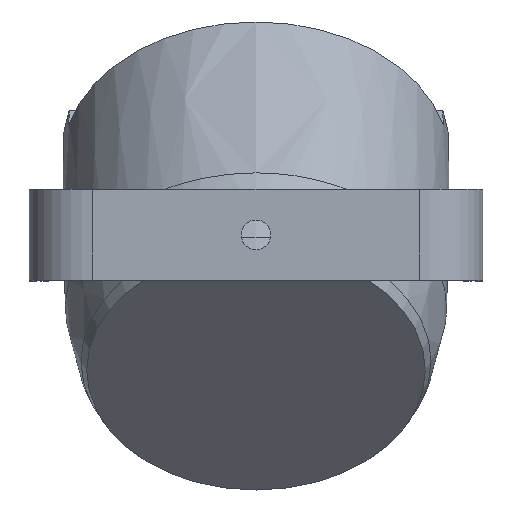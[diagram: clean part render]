
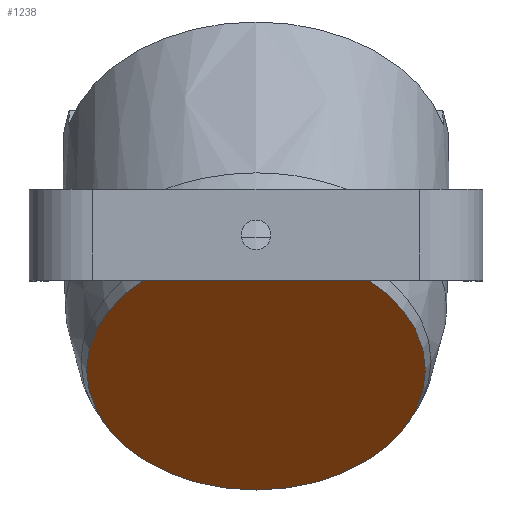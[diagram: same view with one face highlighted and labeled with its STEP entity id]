
A CAD part, top view. The second image highlights one B-rep face of the part: STEP entity #1238.
In plain terms, the highlighted planar face has unit normal (0, -0.707, 0.707) as drawn and (0, -1, 0) by its records, which use the part's own axes.
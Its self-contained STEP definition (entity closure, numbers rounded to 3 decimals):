
#149=CIRCLE('',#1475,74.58);
#215=FACE_OUTER_BOUND('',#294,.T.);
#294=EDGE_LOOP('',(#1133));
#614=VERTEX_POINT('',#2501);
#786=EDGE_CURVE('',#614,#614,#149,.T.);
#1133=ORIENTED_EDGE('',*,*,#786,.T.);
#1172=PLANE('',#1476);
#1238=ADVANCED_FACE('',(#215),#1172,.T.);
#1475=AXIS2_PLACEMENT_3D('',#2502,#1841,#1842);
#1476=AXIS2_PLACEMENT_3D('',#2506,#1843,#1844);
#1841=DIRECTION('center_axis',(0.,-1.,0.));
#1842=DIRECTION('ref_axis',(1.,0.,0.));
#1843=DIRECTION('center_axis',(0.,-1.,0.));
#1844=DIRECTION('ref_axis',(0.,0.,-1.));
#2501=CARTESIAN_POINT('',(0.,-109.8,74.58));
#2502=CARTESIAN_POINT('Origin',(0.,-109.8,0.));
#2506=CARTESIAN_POINT('Origin',(0.,-109.8,0.));
